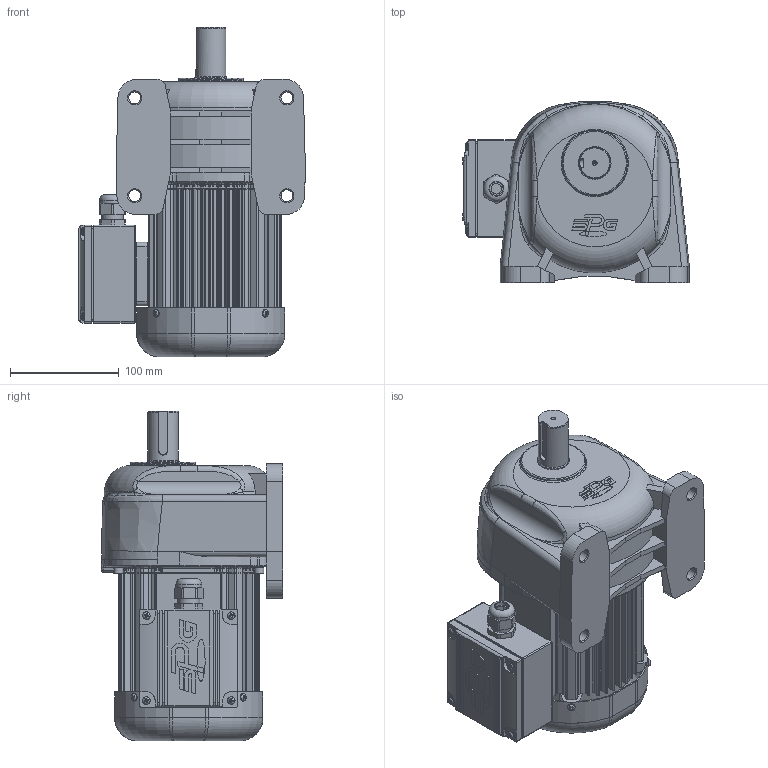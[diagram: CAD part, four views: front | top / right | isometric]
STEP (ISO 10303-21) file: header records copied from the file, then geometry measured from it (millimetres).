
FILE_DESCRIPTION(/* description */ (''),/* implementation_level */ '2;1');
FILE_NAME(/* name */ 'Z:\동력 3D 파일\PAL28-(100~200)-MA(B)020[ ]L (마스터).stp',/* time_stamp */ '2021-08-25T14:19:56+09:00',/* author */ ('jaebok'),/* organization */ (''),/* preprocessor_version */ 'ST-DEVELOPER v18.1',/* originating_system */ 'Autodesk Inventor 2022',/* authorisation */ '');
FILE_SCHEMA (('AUTOMOTIVE_DESIGN { 1 0 10303 214 3 1 1 }'));
Length unit declared in the file: millimetre
Products named in the file (1): 부품36
Bounding box: 208.5 x 166.97 x 303 mm (x, y, z)
Volume: 1741515.5 mm3; surface area: 530705.2 mm2
Topology: 2 solids, 30 shells, 2769 faces, 7058 edges, 4242 vertices
Faces by surface type: plane 874, cylinder 746, bspline 647, torus 275, cone 161, sphere 66
Full cylindrical faces by diameter (mm): 2 x1, 3.242 x9, 3.25 x1, 3.6 x4, 4 x21, 4.2 x4, 4.917 x4, 5 x19, 5.386 x4, 5.5 x4, 6 x8, 7 x12, 8 x4, 8.5 x4, 10 x1, 11 x4, 12.5 x1, 15 x1, 16.2 x1, 19 x1, 20 x2, 21 x1, 23.6 x1, 27 x1, 28 x3, 29.6 x1, 30 x4, 31 x1, 32 x1, 34 x1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
Entity records: 112093 total; most frequent: CARTESIAN_POINT 46724, ORIENTED_EDGE 13742, DIRECTION 12121, EDGE_CURVE 6871, AXIS2_PLACEMENT_3D 4894, VERTEX_POINT 4242, EDGE_LOOP 2950, FACE_OUTER_BOUND 2769
